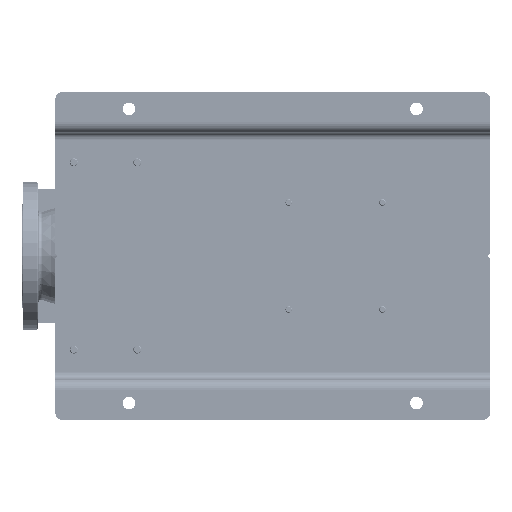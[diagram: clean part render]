
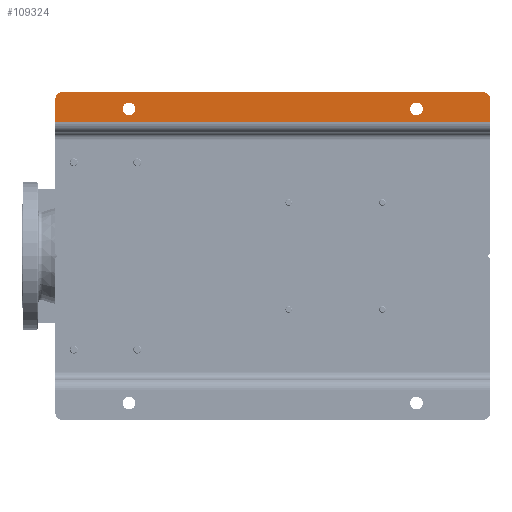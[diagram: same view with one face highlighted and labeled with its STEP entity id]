
A CAD part, front view. The second image highlights one B-rep face of the part: STEP entity #109324.
In plain terms, the highlighted planar face has unit normal (0, -1, 0).
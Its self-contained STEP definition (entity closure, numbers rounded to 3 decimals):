
#2876 = ORIENTED_EDGE ( 'NONE', *, *, #49430, .T. ) ;
#5036 = AXIS2_PLACEMENT_3D ( 'NONE', #127874, #112274, #23476 ) ;
#5122 = EDGE_CURVE ( 'NONE', #33835, #14756, #85195, .T. ) ;
#9093 = CARTESIAN_POINT ( 'NONE',  ( 429., 0., 0. ) ) ;
#11001 = CARTESIAN_POINT ( 'NONE',  ( 429., 0., -650. ) ) ;
#12313 = ORIENTED_EDGE ( 'NONE', *, *, #177340, .T. ) ;
#13328 = DIRECTION ( 'NONE',  ( 0., 0., -1. ) ) ;
#14756 = VERTEX_POINT ( 'NONE', #180863 ) ;
#16734 = CARTESIAN_POINT ( 'NONE',  ( 465., 0., -540. ) ) ;
#17300 = AXIS2_PLACEMENT_3D ( 'NONE', #52336, #25941, #174257 ) ;
#18078 = FACE_OUTER_BOUND ( 'NONE', #52912, .T. ) ;
#19054 = EDGE_LOOP ( 'NONE', ( #12313, #106879 ) ) ;
#20147 = VECTOR ( 'NONE', #42789, 1000. ) ;
#23476 = DIRECTION ( 'NONE',  ( 0., 0., -1. ) ) ;
#24615 = AXIS2_PLACEMENT_3D ( 'NONE', #164481, #178147, #30784 ) ;
#25941 = DIRECTION ( 'NONE',  ( 0., 1., 0. ) ) ;
#26198 = CARTESIAN_POINT ( 'NONE',  ( 480., 0., 0. ) ) ;
#27882 = CARTESIAN_POINT ( 'NONE',  ( 455.5, 0., -540. ) ) ;
#30784 = DIRECTION ( 'NONE',  ( 0., 0., -1. ) ) ;
#33308 = DIRECTION ( 'NONE',  ( 0., 0., -1. ) ) ;
#33835 = VERTEX_POINT ( 'NONE', #147122 ) ;
#40140 = EDGE_CURVE ( 'NONE', #74468, #90238, #87457, .T. ) ;
#40338 = EDGE_CURVE ( 'NONE', #126350, #90238, #186698, .T. ) ;
#42789 = DIRECTION ( 'NONE',  ( 0., 0., 1. ) ) ;
#43831 = AXIS2_PLACEMENT_3D ( 'NONE', #149774, #133215, #178076 ) ;
#47106 = VERTEX_POINT ( 'NONE', #103289 ) ;
#49430 = EDGE_CURVE ( 'NONE', #14756, #47106, #157665, .T. ) ;
#50588 = VERTEX_POINT ( 'NONE', #81756 ) ;
#51570 = ORIENTED_EDGE ( 'NONE', *, *, #129915, .T. ) ;
#52336 = CARTESIAN_POINT ( 'NONE',  ( 465., 0., -110. ) ) ;
#52912 = EDGE_LOOP ( 'NONE', ( #151267, #113323, #132761, #2876, #51570, #62726 ) ) ;
#53030 = DIRECTION ( 'NONE',  ( 1., 0., 0. ) ) ;
#54632 = CIRCLE ( 'NONE', #17300, 9.5 ) ;
#57492 = EDGE_CURVE ( 'NONE', #50588, #73612, #125205, .T. ) ;
#57691 = VECTOR ( 'NONE', #13328, 1000. ) ;
#59457 = VECTOR ( 'NONE', #53030, 1000. ) ;
#59945 = CIRCLE ( 'NONE', #97232, 9.5 ) ;
#62726 = ORIENTED_EDGE ( 'NONE', *, *, #40140, .T. ) ;
#68848 = ORIENTED_EDGE ( 'NONE', *, *, #116510, .T. ) ;
#70555 = DIRECTION ( 'NONE',  ( 1., 0., 0. ) ) ;
#73504 = DIRECTION ( 'NONE',  ( 0., 0., -1. ) ) ;
#73612 = VERTEX_POINT ( 'NONE', #27882 ) ;
#73905 = CIRCLE ( 'NONE', #80186, 9.5 ) ;
#74468 = VERTEX_POINT ( 'NONE', #79820 ) ;
#75704 = FACE_BOUND ( 'NONE', #146082, .T. ) ;
#79820 = CARTESIAN_POINT ( 'NONE',  ( 490., 0., -10. ) ) ;
#80186 = AXIS2_PLACEMENT_3D ( 'NONE', #16734, #164120, #33308 ) ;
#81756 = CARTESIAN_POINT ( 'NONE',  ( 474.5, 0., -540. ) ) ;
#85195 = LINE ( 'NONE', #11001, #175445 ) ;
#87457 = CIRCLE ( 'NONE', #43831, 10. ) ;
#87519 = LINE ( 'NONE', #147019, #57691 ) ;
#90023 = ORIENTED_EDGE ( 'NONE', *, *, #57492, .T. ) ;
#90238 = VERTEX_POINT ( 'NONE', #26198 ) ;
#90330 = PLANE ( 'NONE',  #24615 ) ;
#95920 = DIRECTION ( 'NONE',  ( 0., 0., -1. ) ) ;
#97232 = AXIS2_PLACEMENT_3D ( 'NONE', #142678, #113440, #95920 ) ;
#99830 = EDGE_CURVE ( 'NONE', #132225, #112091, #54632, .T. ) ;
#103289 = CARTESIAN_POINT ( 'NONE',  ( 490., 0., -640. ) ) ;
#106879 = ORIENTED_EDGE ( 'NONE', *, *, #99830, .T. ) ;
#109324 = ADVANCED_FACE ( 'NONE', ( #165428, #75704, #18078 ), #90330, .T. ) ;
#112091 = VERTEX_POINT ( 'NONE', #182539 ) ;
#112274 = DIRECTION ( 'NONE',  ( 0., -1., 0. ) ) ;
#113323 = ORIENTED_EDGE ( 'NONE', *, *, #184211, .T. ) ;
#113440 = DIRECTION ( 'NONE',  ( 0., 1., 0. ) ) ;
#116510 = EDGE_CURVE ( 'NONE', #73612, #50588, #73905, .T. ) ;
#116966 = LINE ( 'NONE', #176471, #20147 ) ;
#125205 = CIRCLE ( 'NONE', #140777, 9.5 ) ;
#126350 = VERTEX_POINT ( 'NONE', #164701 ) ;
#127874 = CARTESIAN_POINT ( 'NONE',  ( 480., 0., -640. ) ) ;
#129915 = EDGE_CURVE ( 'NONE', #47106, #74468, #116966, .T. ) ;
#132225 = VERTEX_POINT ( 'NONE', #168667 ) ;
#132761 = ORIENTED_EDGE ( 'NONE', *, *, #5122, .T. ) ;
#133215 = DIRECTION ( 'NONE',  ( 0., -1., 0. ) ) ;
#140777 = AXIS2_PLACEMENT_3D ( 'NONE', #179800, #151495, #73504 ) ;
#142678 = CARTESIAN_POINT ( 'NONE',  ( 465., 0., -110. ) ) ;
#146082 = EDGE_LOOP ( 'NONE', ( #68848, #90023 ) ) ;
#147019 = CARTESIAN_POINT ( 'NONE',  ( 445., 0., -650. ) ) ;
#147122 = CARTESIAN_POINT ( 'NONE',  ( 445., 0., -650. ) ) ;
#149774 = CARTESIAN_POINT ( 'NONE',  ( 480., 0., -10. ) ) ;
#151267 = ORIENTED_EDGE ( 'NONE', *, *, #40338, .F. ) ;
#151495 = DIRECTION ( 'NONE',  ( 0., 1., 0. ) ) ;
#157665 = CIRCLE ( 'NONE', #5036, 10. ) ;
#164120 = DIRECTION ( 'NONE',  ( 0., 1., 0. ) ) ;
#164481 = CARTESIAN_POINT ( 'NONE',  ( 429., 0., -650. ) ) ;
#164701 = CARTESIAN_POINT ( 'NONE',  ( 445., 0., 0. ) ) ;
#165428 = FACE_BOUND ( 'NONE', #19054, .T. ) ;
#168667 = CARTESIAN_POINT ( 'NONE',  ( 474.5, 0., -110. ) ) ;
#174257 = DIRECTION ( 'NONE',  ( 0., 0., -1. ) ) ;
#175445 = VECTOR ( 'NONE', #70555, 1000. ) ;
#176471 = CARTESIAN_POINT ( 'NONE',  ( 490., 0., -650. ) ) ;
#177340 = EDGE_CURVE ( 'NONE', #112091, #132225, #59945, .T. ) ;
#178076 = DIRECTION ( 'NONE',  ( 0., 0., -1. ) ) ;
#178147 = DIRECTION ( 'NONE',  ( 0., -1., 0. ) ) ;
#179800 = CARTESIAN_POINT ( 'NONE',  ( 465., 0., -540. ) ) ;
#180863 = CARTESIAN_POINT ( 'NONE',  ( 480., 0., -650. ) ) ;
#182539 = CARTESIAN_POINT ( 'NONE',  ( 455.5, 0., -110. ) ) ;
#184211 = EDGE_CURVE ( 'NONE', #126350, #33835, #87519, .T. ) ;
#186698 = LINE ( 'NONE', #9093, #59457 ) ;
